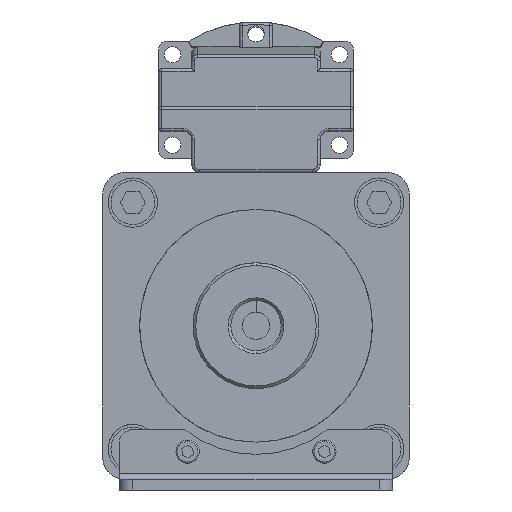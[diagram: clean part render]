
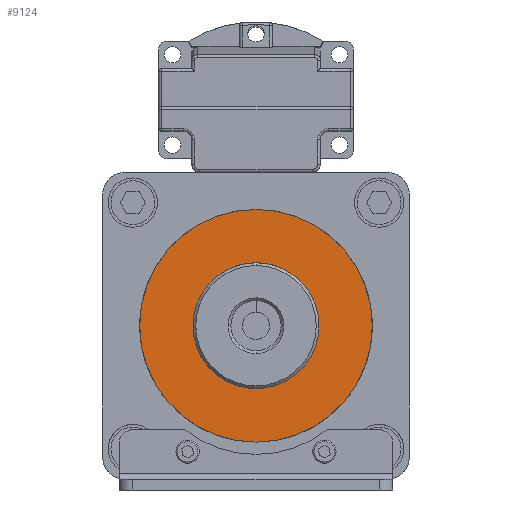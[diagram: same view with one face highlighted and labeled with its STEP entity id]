
A CAD part, front view. The second image highlights one B-rep face of the part: STEP entity #9124.
In plain terms, the highlighted planar face has unit normal (0, -1, 0).
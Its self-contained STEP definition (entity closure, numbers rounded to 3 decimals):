
#177 = CIRCLE ( 'NONE', #1937, 42.5 ) ;
#478 = DIRECTION ( 'NONE',  ( 0., 0., -1. ) ) ;
#549 = CIRCLE ( 'NONE', #5875, 23. ) ;
#670 = ORIENTED_EDGE ( 'NONE', *, *, #7867, .T. ) ;
#900 = DIRECTION ( 'NONE',  ( 0., -1., 0. ) ) ;
#1835 = CARTESIAN_POINT ( 'NONE',  ( 0., -124.5, -79. ) ) ;
#1858 = VERTEX_POINT ( 'NONE', #10539 ) ;
#1937 = AXIS2_PLACEMENT_3D ( 'NONE', #13690, #7155, #478 ) ;
#1947 = DIRECTION ( 'NONE',  ( 0., 0., -1. ) ) ;
#2258 = ORIENTED_EDGE ( 'NONE', *, *, #2632, .T. ) ;
#2457 = VERTEX_POINT ( 'NONE', #5225 ) ;
#2632 = EDGE_CURVE ( 'NONE', #1858, #2457, #10750, .T. ) ;
#2754 = ORIENTED_EDGE ( 'NONE', *, *, #6259, .F. ) ;
#3019 = PLANE ( 'NONE',  #8496 ) ;
#3480 = EDGE_LOOP ( 'NONE', ( #2754, #12557 ) ) ;
#3865 = DIRECTION ( 'NONE',  ( 0., 0., -1. ) ) ;
#3896 = DIRECTION ( 'NONE',  ( 0., -1., 0. ) ) ;
#3900 = CARTESIAN_POINT ( 'NONE',  ( 0., -124.5, -56. ) ) ;
#4185 = AXIS2_PLACEMENT_3D ( 'NONE', #3900, #3896, #3865 ) ;
#4881 = DIRECTION ( 'NONE',  ( 0., -1., 0. ) ) ;
#5225 = CARTESIAN_POINT ( 'NONE',  ( 0., -124.5, -98.5 ) ) ;
#5234 = CARTESIAN_POINT ( 'NONE',  ( 0., -124.5, -98.5 ) ) ;
#5289 = VERTEX_POINT ( 'NONE', #1835 ) ;
#5875 = AXIS2_PLACEMENT_3D ( 'NONE', #7557, #900, #8655 ) ;
#5960 = CIRCLE ( 'NONE', #14093, 23. ) ;
#6259 = EDGE_CURVE ( 'NONE', #5289, #12900, #549, .T. ) ;
#7155 = DIRECTION ( 'NONE',  ( 0., -1., 0. ) ) ;
#7557 = CARTESIAN_POINT ( 'NONE',  ( 0., -124.5, -56. ) ) ;
#7867 = EDGE_CURVE ( 'NONE', #2457, #1858, #177, .T. ) ;
#7875 = CARTESIAN_POINT ( 'NONE',  ( 0., -124.5, -33. ) ) ;
#8496 = AXIS2_PLACEMENT_3D ( 'NONE', #5234, #8550, #1947 ) ;
#8550 = DIRECTION ( 'NONE',  ( 0., -1., 0. ) ) ;
#8622 = EDGE_LOOP ( 'NONE', ( #670, #2258 ) ) ;
#8655 = DIRECTION ( 'NONE',  ( 0., 0., -1. ) ) ;
#9124 = ADVANCED_FACE ( 'NONE', ( #12992, #12306 ), #3019, .T. ) ;
#9451 = EDGE_CURVE ( 'NONE', #12900, #5289, #5960, .T. ) ;
#10539 = CARTESIAN_POINT ( 'NONE',  ( 0., -124.5, -13.5 ) ) ;
#10750 = CIRCLE ( 'NONE', #4185, 42.5 ) ;
#11415 = CARTESIAN_POINT ( 'NONE',  ( 0., -124.5, -56. ) ) ;
#12306 = FACE_BOUND ( 'NONE', #3480, .T. ) ;
#12519 = DIRECTION ( 'NONE',  ( 0., 0., -1. ) ) ;
#12557 = ORIENTED_EDGE ( 'NONE', *, *, #9451, .F. ) ;
#12900 = VERTEX_POINT ( 'NONE', #7875 ) ;
#12992 = FACE_OUTER_BOUND ( 'NONE', #8622, .T. ) ;
#13690 = CARTESIAN_POINT ( 'NONE',  ( 0., -124.5, -56. ) ) ;
#14093 = AXIS2_PLACEMENT_3D ( 'NONE', #11415, #4881, #12519 ) ;
